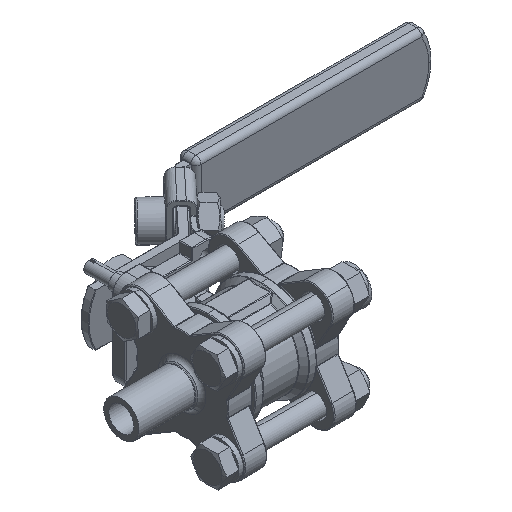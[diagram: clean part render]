
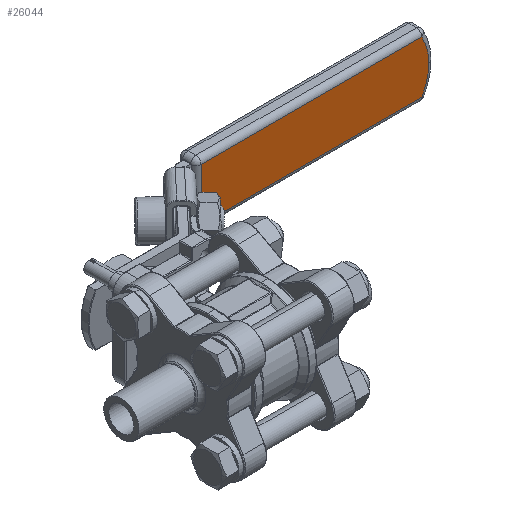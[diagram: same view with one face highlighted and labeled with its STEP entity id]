
A CAD part, isometric view. The second image highlights one B-rep face of the part: STEP entity #26044.
In plain terms, the highlighted planar face has unit normal (0, -1, 0) as drawn and (0, 0, 1) by its records, which use the part's own axes.
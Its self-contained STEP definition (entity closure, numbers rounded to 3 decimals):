
#19 = DIRECTION ( 'NONE',  ( 0., -1., 0. ) ) ;
#889 = ORIENTED_EDGE ( 'NONE', *, *, #12655, .T. ) ;
#1470 = CARTESIAN_POINT ( 'NONE',  ( 2., -10., 3.5 ) ) ;
#2179 = EDGE_CURVE ( 'NONE', #4075, #8690, #3815, .T. ) ;
#2231 = CARTESIAN_POINT ( 'NONE',  ( 0., -10., 3.5 ) ) ;
#2323 = CARTESIAN_POINT ( 'NONE',  ( 0., 0., 3.5 ) ) ;
#2338 = LINE ( 'NONE', #19287, #20206 ) ;
#3404 = AXIS2_PLACEMENT_3D ( 'NONE', #12135, #20322, #22298 ) ;
#3815 = CIRCLE ( 'NONE', #3404, 20. ) ;
#4075 = VERTEX_POINT ( 'NONE', #4505 ) ;
#4505 = CARTESIAN_POINT ( 'NONE',  ( 89., 0., 3.5 ) ) ;
#6901 = VERTEX_POINT ( 'NONE', #1470 ) ;
#7127 = DIRECTION ( 'NONE',  ( 1., 0., 0. ) ) ;
#7282 = EDGE_LOOP ( 'NONE', ( #889, #17912, #16991, #23017, #10048 ) ) ;
#8619 = FACE_OUTER_BOUND ( 'NONE', #7282, .T. ) ;
#8690 = VERTEX_POINT ( 'NONE', #13378 ) ;
#9529 = AXIS2_PLACEMENT_3D ( 'NONE', #13738, #15658, #7127 ) ;
#10048 = ORIENTED_EDGE ( 'NONE', *, *, #2179, .T. ) ;
#10405 = LINE ( 'NONE', #2231, #18202 ) ;
#10761 = DIRECTION ( 'NONE',  ( 0., 0., 1. ) ) ;
#12135 = CARTESIAN_POINT ( 'NONE',  ( 69., 0., 3.5 ) ) ;
#12655 = EDGE_CURVE ( 'NONE', #8690, #17783, #2338, .T. ) ;
#12751 = DIRECTION ( 'NONE',  ( 1., 0., 0. ) ) ;
#13360 = EDGE_CURVE ( 'NONE', #6901, #25627, #10405, .T. ) ;
#13378 = CARTESIAN_POINT ( 'NONE',  ( 86.321, 10., 3.5 ) ) ;
#13738 = CARTESIAN_POINT ( 'NONE',  ( 69., 0., 3.5 ) ) ;
#15658 = DIRECTION ( 'NONE',  ( 0., 0., 1. ) ) ;
#15821 = CIRCLE ( 'NONE', #9529, 20. ) ;
#16262 = CARTESIAN_POINT ( 'NONE',  ( 2., 0., 3.5 ) ) ;
#16991 = ORIENTED_EDGE ( 'NONE', *, *, #13360, .T. ) ;
#17783 = VERTEX_POINT ( 'NONE', #25842 ) ;
#17912 = ORIENTED_EDGE ( 'NONE', *, *, #22534, .T. ) ;
#18202 = VECTOR ( 'NONE', #20871, 1000. ) ;
#18629 = AXIS2_PLACEMENT_3D ( 'NONE', #2323, #10761, #12751 ) ;
#19287 = CARTESIAN_POINT ( 'NONE',  ( 0., 10., 3.5 ) ) ;
#19707 = DIRECTION ( 'NONE',  ( -1., 0., 0. ) ) ;
#20206 = VECTOR ( 'NONE', #19707, 1000. ) ;
#20322 = DIRECTION ( 'NONE',  ( 0., 0., 1. ) ) ;
#20871 = DIRECTION ( 'NONE',  ( 1., 0., 0. ) ) ;
#21272 = PLANE ( 'NONE',  #18629 ) ;
#21917 = CARTESIAN_POINT ( 'NONE',  ( 86.321, -10., 3.5 ) ) ;
#22298 = DIRECTION ( 'NONE',  ( 1., 0., 0. ) ) ;
#22386 = VECTOR ( 'NONE', #19, 1000. ) ;
#22534 = EDGE_CURVE ( 'NONE', #17783, #6901, #23645, .T. ) ;
#23017 = ORIENTED_EDGE ( 'NONE', *, *, #25081, .T. ) ;
#23645 = LINE ( 'NONE', #16262, #22386 ) ;
#25081 = EDGE_CURVE ( 'NONE', #25627, #4075, #15821, .T. ) ;
#25627 = VERTEX_POINT ( 'NONE', #21917 ) ;
#25842 = CARTESIAN_POINT ( 'NONE',  ( 2., 10., 3.5 ) ) ;
#26044 = ADVANCED_FACE ( 'NONE', ( #8619 ), #21272, .T. ) ;
